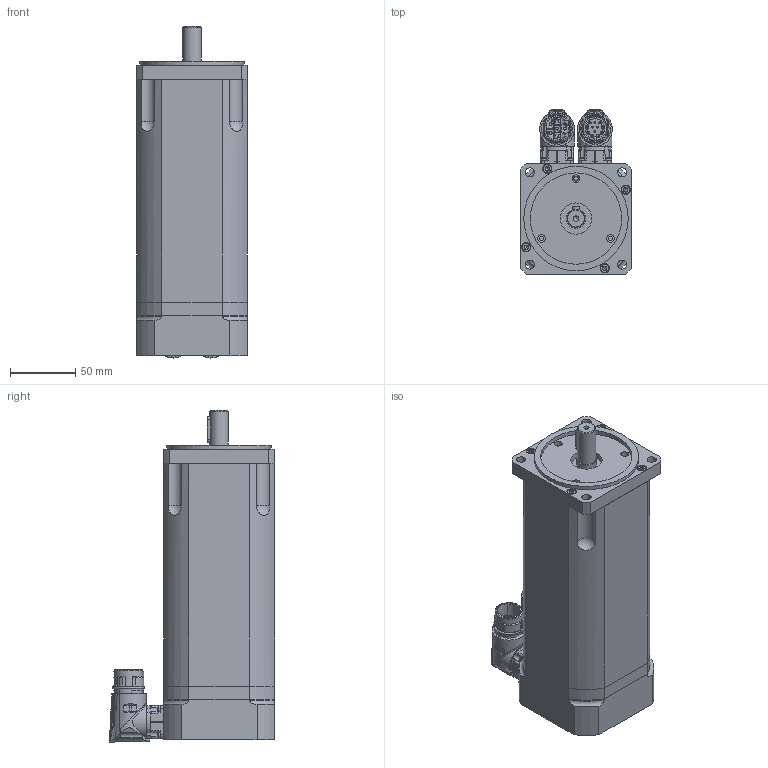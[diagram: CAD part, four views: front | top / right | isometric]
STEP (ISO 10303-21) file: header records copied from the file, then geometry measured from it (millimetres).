
FILE_DESCRIPTION(/* description */ (''),/* implementation_level */ '2;1');
FILE_NAME(/* name */ 'C:\Users\Public\Documents\Autodesk\Inventor LT 2014\Workspace\Motori Sito WEB\TG_3\STEP_DSM5_3x\DSM5_33_x197.stp',/* time_stamp */ '2021-03-31T14:11:46+02:00',/* author */ ('marcor'),/* organization */ (''),/* preprocessor_version */ 'ST-DEVELOPER v15.2',/* originating_system */ 'Autodesk Inventor LT ',/* authorisation */ '');
FILE_SCHEMA (('AUTOMOTIVE_DESIGN { 1 0 10303 214 3 1 1 }'));
Products named in the file (1): DSM5_33_x197
Bounding box: 85 x 126.5 x 254.41 mm (x, y, z)
Volume: 1544960.2 mm3; surface area: 154030.9 mm2
Topology: 16 solids, 26 shells, 1433 faces, 3712 edges, 2469 vertices
Faces by surface type: plane 525, cylinder 441, cone 247, bspline 113, torus 75, sphere 32
Full cylindrical faces by diameter (mm): 1.2 x12, 2.224 x8, 2.233 x6, 2.5 x8, 2.88 x8, 3.242 x12, 3.26 x8, 3.5 x3, 4 x12, 4.134 x1, 4.5 x14, 4.8 x8, 5.5 x3, 5.9 x2, 6 x3, 7 x16, 7.2 x8, 7.5 x4, 13.8 x1, 14 x1, 14.98 x1, 15.2 x1, 17.4 x3, 18 x1, 19.8 x1, 21.15 x4, 21.6 x1, 21.653 x2, 24 x1, 24.3 x2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
Entity records: 50760 total; most frequent: CARTESIAN_POINT 17585, ORIENTED_EDGE 6546, DIRECTION 6113, EDGE_CURVE 3273, AXIS2_PLACEMENT_3D 2513, VERTEX_POINT 2359, EDGE_LOOP 1964, ADVANCED_FACE 1433
